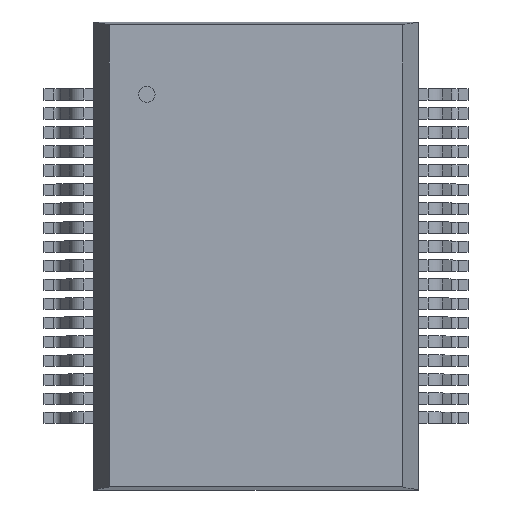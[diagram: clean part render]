
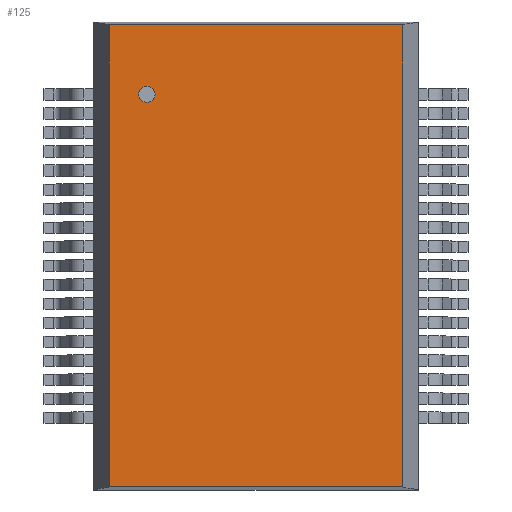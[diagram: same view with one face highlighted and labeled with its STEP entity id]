
A CAD part, top view. The second image highlights one B-rep face of the part: STEP entity #125.
In plain terms, the highlighted planar face has unit normal (0, 0, 1).
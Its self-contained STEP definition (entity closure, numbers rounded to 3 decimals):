
#125=ADVANCED_FACE($,(#131),#126,.F.);
#126=PLANE($,#127);
#127=AXIS2_PLACEMENT_3D($,#128,#129,#130);
#128=CARTESIAN_POINT('Origin',(-5.016,-7.899,3.607));
#129=DIRECTION('center_axis',(0.0,0.0,-1.0));
#130=DIRECTION('ref_axis',(0.,1.,0.));
#131=FACE_OUTER_BOUND($,#132,.T.);
#132=EDGE_LOOP($,(#133,#143,#153,#163));
#133=ORIENTED_EDGE($,*,*,#134,.F.);
#134=EDGE_CURVE($,#135,#137,#139,.T.);
#135=VERTEX_POINT($,#136);
#136=CARTESIAN_POINT('',(5.016,-7.899,3.607));
#137=VERTEX_POINT($,#138);
#138=CARTESIAN_POINT('',(-5.016,-7.899,3.607));
#139=LINE($,#140,#141);
#140=CARTESIAN_POINT($,(5.016,-7.899,3.607));
#141=VECTOR($,#142,10.033);
#142=DIRECTION($,(-1.0,0.0,0.0));
#143=ORIENTED_EDGE($,*,*,#144,.F.);
#144=EDGE_CURVE($,#145,#147,#149,.T.);
#145=VERTEX_POINT($,#146);
#146=CARTESIAN_POINT('',(5.016,7.899,3.607));
#147=VERTEX_POINT($,#136);
#149=LINE($,#150,#151);
#150=CARTESIAN_POINT($,(5.016,7.899,3.607));
#151=VECTOR($,#152,15.799);
#152=DIRECTION($,(0.0,-1.0,0.0));
#153=ORIENTED_EDGE($,*,*,#154,.F.);
#154=EDGE_CURVE($,#155,#157,#159,.T.);
#155=VERTEX_POINT($,#156);
#156=CARTESIAN_POINT('',(-5.016,7.899,3.607));
#157=VERTEX_POINT($,#146);
#159=LINE($,#160,#161);
#160=CARTESIAN_POINT($,(-5.016,7.899,3.607));
#161=VECTOR($,#162,10.033);
#162=DIRECTION($,(1.0,0.0,0.0));
#163=ORIENTED_EDGE($,*,*,#164,.F.);
#164=EDGE_CURVE($,#165,#167,#169,.T.);
#165=VERTEX_POINT($,#138);
#167=VERTEX_POINT($,#156);
#169=LINE($,#170,#171);
#170=CARTESIAN_POINT($,(-5.016,-7.899,3.607));
#171=VECTOR($,#172,15.799);
#172=DIRECTION($,(0.0,1.0,0.0));
